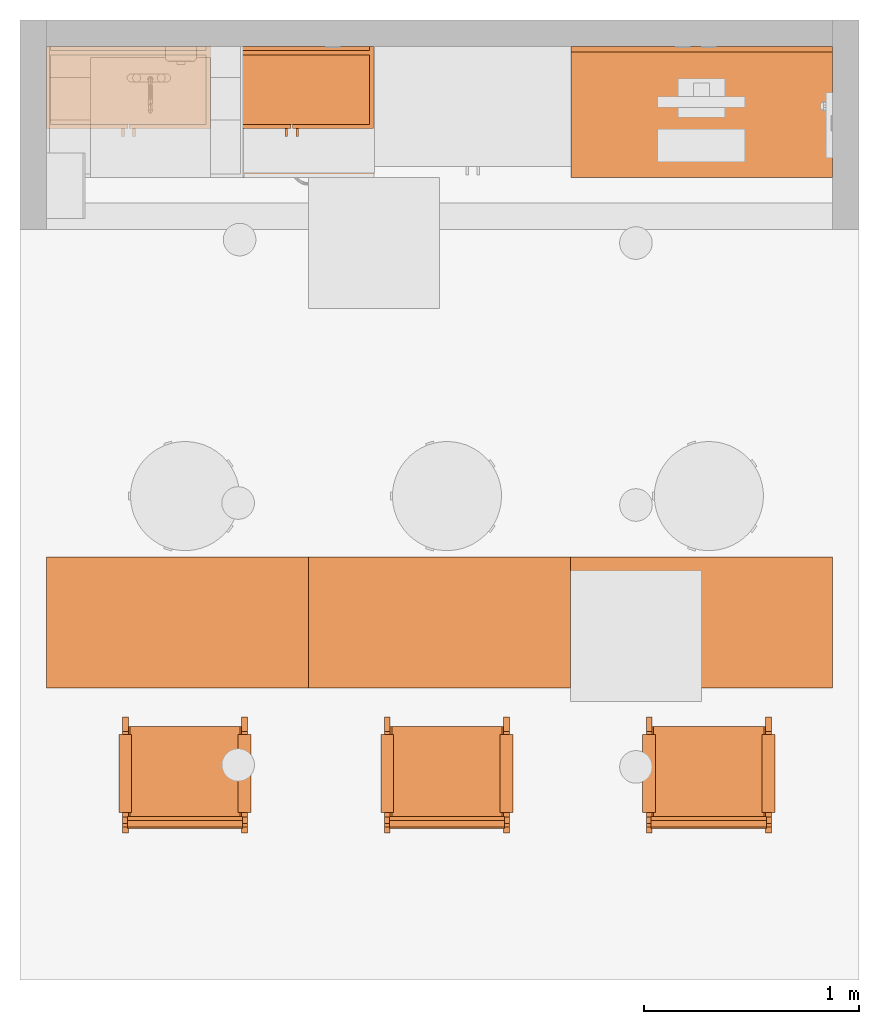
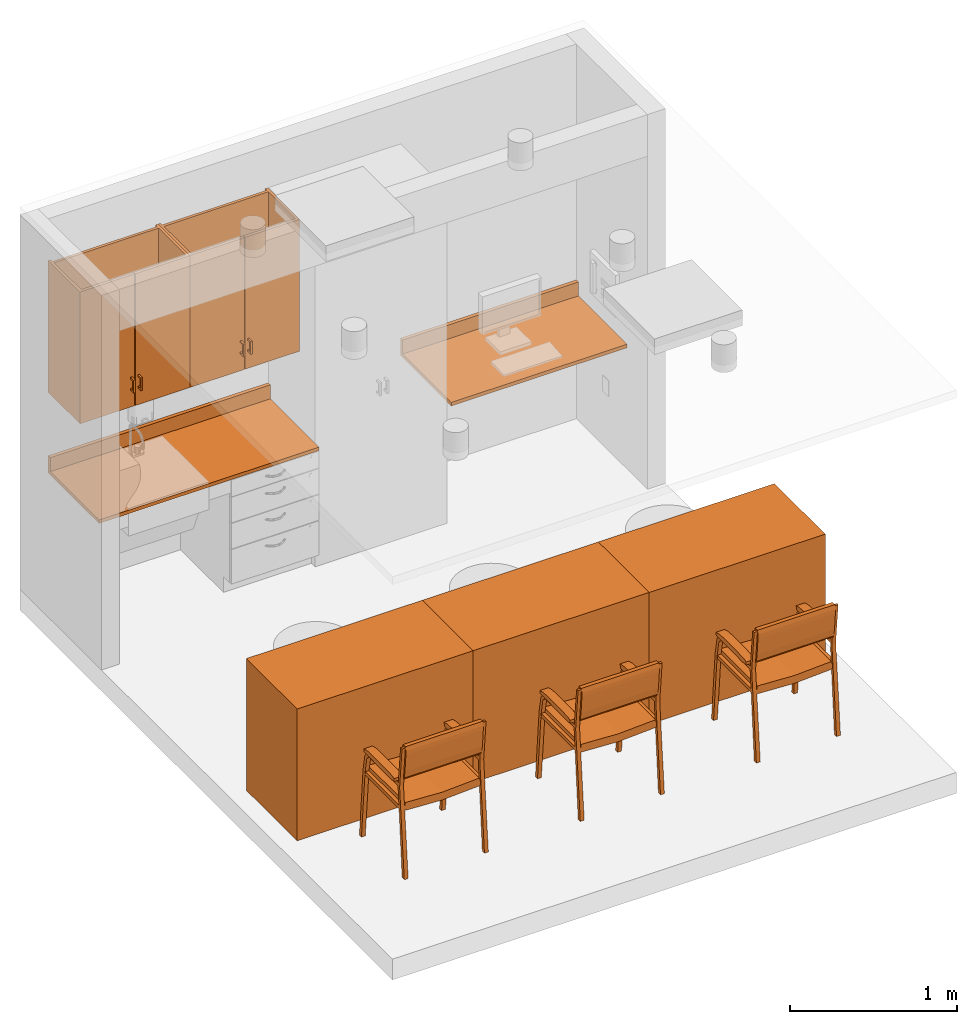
# One storey, part 4 of 8: 10 proxies.
"""IFC2X3 building model written with IfcOpenShell, lengths in feet."""

import ifcopenshell
import ifcopenshell.guid

model = None  # the IFC model being written
_history = None  # IfcOwnerHistory: only IFC2X3 demands one
_inside = {}  # id of a spatial element -> (the spatial element, [elements in it])
_under = {}  # id of a project, library or spatial element -> (it, [spatial elements below it])
_declared = {}  # id of a project -> (the project, [libraries it declares])
_typed = {}  # id of a type object -> (the type object, [elements of that type])
_made_of = {}  # id of a material, layer set ... -> (it, [elements and type objects made of it])


def new_model(schema):
    """Start an empty IFC model of exactly this schema.

    Asked for "IFC4X3", IfcOpenShell would pick the latest addendum, in which some entities
    have other attributes; the version numbers below select the first issue.
    IFC2X3 requires an IfcOwnerHistory on every rooted entity: one is made here for all.
    """
    global model, _history
    if schema == "IFC4X3":
        model = ifcopenshell.file(schema_version=(4, 3, 0, 0))
    else:
        model = ifcopenshell.file(schema=schema)
    _inside.clear()
    _under.clear()
    _declared.clear()
    _typed.clear()
    _made_of.clear()
    _history = None
    if model.schema == "IFC2X3":
        org = make("IfcOrganization", Name="unknown")
        user = make(
            "IfcPersonAndOrganization",
            ThePerson=make("IfcPerson", FamilyName="unknown"),
            TheOrganization=org,
        )
        app = make(
            "IfcApplication",
            ApplicationDeveloper=org,
            Version="unknown",
            ApplicationFullName="unknown",
            ApplicationIdentifier="unknown",
        )
        _history = make(
            "IfcOwnerHistory",
            OwningUser=user,
            OwningApplication=app,
            ChangeAction="ADDED",
            CreationDate=0,
        )
    return model


def make(cls, **values):
    """One entity of the class cls with the attributes given. An attribute that is None is left unset."""
    return model.create_entity(
        cls, **{name: value for name, value in values.items() if value is not None}
    )


def entity(cls, *values):
    """Any entity or typed value of the class cls, its attributes in the order of the schema. None: left unset."""
    e = model.create_entity(cls)
    for i, value in enumerate(values):
        if value is not None:
            e[i] = value
    return e


def rooted(cls, **values):
    """An entity with a GlobalId (a new one), such as an element, a storey or a relation."""
    return make(cls, GlobalId=ifcopenshell.guid.new(), OwnerHistory=_history, **values)


def si_unit(unit_type, name, prefix=None):
    """IfcSIUnit, for example si_unit("LENGTHUNIT", "METRE", prefix="MILLI")."""
    return make("IfcSIUnit", UnitType=unit_type, Prefix=prefix, Name=name)


def converted_unit(unit_type, name, factor, base, dimensions=None, offset=None):
    """IfcConversionBasedUnit, such as the inch: factor (a typed value) times the base unit."""
    return make(
        "IfcConversionBasedUnit"
        if offset is None
        else "IfcConversionBasedUnitWithOffset",
        ConversionOffset=offset,
        Dimensions=None
        if dimensions is None
        else entity("IfcDimensionalExponents", *dimensions),
        UnitType=unit_type,
        Name=name,
        ConversionFactor=make(
            "IfcMeasureWithUnit", ValueComponent=factor, UnitComponent=base
        ),
    )


def derived_unit(unit_type, elements):
    """IfcDerivedUnit: a product of units, each with its exponent."""
    return make(
        "IfcDerivedUnit",
        Elements=[
            make("IfcDerivedUnitElement", Unit=unit, Exponent=power)
            for unit, power in elements
        ],
        UnitType=unit_type,
    )


def assignment(units):
    """IfcUnitAssignment: the units of a project."""
    return None if units is None else make("IfcUnitAssignment", Units=units)


def point(xyz):
    """IfcCartesianPoint."""
    return None if xyz is None else make("IfcCartesianPoint", Coordinates=xyz)


def direction(xyz):
    """IfcDirection."""
    return None if xyz is None else make("IfcDirection", DirectionRatios=xyz)


def frame(location, z_axis=None, x_axis=None):
    """IfcAxis2Placement3D, a coordinate frame: its origin and axes. An axis left out is left unset."""
    return make(
        "IfcAxis2Placement3D",
        Location=point(location),
        Axis=direction(z_axis),
        RefDirection=direction(x_axis),
    )


def frame_2d(location, x_axis=None):
    """IfcAxis2Placement2D, a coordinate frame in the plane: its origin and x axis."""
    return make(
        "IfcAxis2Placement2D", Location=point(location), RefDirection=direction(x_axis)
    )


def origin():
    """The frame at (0, 0, 0) with its axes left unset."""
    return frame((0.0, 0.0, 0.0))


def origin_2d_with_axis():
    """The frame at (0, 0) in the plane with the x axis (1, 0) written out."""
    return frame_2d((0.0, 0.0), x_axis=(1.0, 0.0))


def place(relative_to, where):
    """IfcLocalPlacement: puts the frame where relative to a parent placement (None: the world)."""
    return make(
        "IfcLocalPlacement", PlacementRelTo=relative_to, RelativePlacement=where
    )


def context(
    kind, dimensions, precision=None, world=None, true_north=None, identifier=None
):
    """IfcGeometricRepresentationContext, for example the 3D "Model" context."""
    return make(
        "IfcGeometricRepresentationContext",
        ContextIdentifier=identifier,
        ContextType=kind,
        CoordinateSpaceDimension=dimensions,
        Precision=precision,
        WorldCoordinateSystem=world,
        TrueNorth=true_north,
    )


def subcontext(parent, identifier, kind, view, scale=None):
    """IfcGeometricRepresentationSubContext, for example "Body" below "Model"."""
    return make(
        "IfcGeometricRepresentationSubContext",
        ContextIdentifier=identifier,
        ContextType=kind,
        ParentContext=parent,
        TargetScale=scale,
        TargetView=view,
    )


def project(units=None, contexts=None):
    """IfcProject with its units and contexts."""
    return rooted(
        "IfcProject",
        Name="project",
        RepresentationContexts=contexts,
        UnitsInContext=assignment(units),
    )


def spatial(cls, under=None, at=None, **own):
    """A site, building, storey or space (cls), placed at a placement, below another one or the project."""
    s = rooted(cls, ObjectPlacement=at, **own)
    if under is not None:
        _under.setdefault(under.id(), (under, []))[1].append(s)
    return s


def polyline(points):
    """IfcPolyline through the points."""
    return make("IfcPolyline", Points=[point(p) for p in points])


def circle_curve(where, radius):
    """IfcCircle in the frame where."""
    return make("IfcCircle", Position=where, Radius=radius)


def parameter(value):
    """IfcParameterValue: where a trimmed curve begins or ends, as a parameter of its basis curve."""
    return model.create_entity("IfcParameterValue", value)


def trimmed(basis, trim1, trim2, sense, master):
    """IfcTrimmedCurve: the piece of a basis curve between two trims."""
    return make(
        "IfcTrimmedCurve",
        BasisCurve=basis,
        Trim1=trim1,
        Trim2=trim2,
        SenseAgreement=sense,
        MasterRepresentation=master,
    )


def segment(curve, same_sense, transition):
    """IfcCompositeCurveSegment."""
    return make(
        "IfcCompositeCurveSegment",
        Transition=transition,
        SameSense=same_sense,
        ParentCurve=curve,
    )


def composite_curve(segments, self_intersect=None):
    """IfcCompositeCurve: segments joined end to end."""
    return make("IfcCompositeCurve", Segments=segments, SelfIntersect=self_intersect)


def profile(cls, at=None, kind="AREA", **sizes):
    """A parametric profile (cls). Its sizes go by their IFC names, for example OverallWidth=200.0."""
    return make(cls, ProfileType=kind, Position=at, **sizes)


def rectangle(**sizes):
    """IfcRectangleProfileDef."""
    return profile("IfcRectangleProfileDef", **sizes)


def circle(**sizes):
    """IfcCircleProfileDef."""
    return profile("IfcCircleProfileDef", **sizes)


def outline(outer, holes=None, kind="AREA"):
    """IfcArbitraryClosedProfileDef: a profile drawn as a closed curve; with holes, ...WithVoids."""
    if holes is None:
        return make("IfcArbitraryClosedProfileDef", ProfileType=kind, OuterCurve=outer)
    return make(
        "IfcArbitraryProfileDefWithVoids",
        ProfileType=kind,
        OuterCurve=outer,
        InnerCurves=holes,
    )


def extrude(swept, where, along, depth):
    """IfcExtrudedAreaSolid: the profile swept, set in the frame where, extruded along a direction by depth."""
    return make(
        "IfcExtrudedAreaSolid",
        SweptArea=swept,
        Position=where,
        ExtrudedDirection=direction(along),
        Depth=depth,
    )


def shape(context_of_items, identifier, shape_type, items):
    """IfcShapeRepresentation: the items that make up one representation, for example the "Body"."""
    return make(
        "IfcShapeRepresentation",
        ContextOfItems=context_of_items,
        RepresentationIdentifier=identifier,
        RepresentationType=shape_type,
        Items=items,
    )


def source(mapping_origin, context_of_items, identifier, shape_type, items):
    """IfcRepresentationMap: a shape defined once, which mapped items show again and again."""
    return make(
        "IfcRepresentationMap",
        MappingOrigin=mapping_origin,
        MappedRepresentation=shape(context_of_items, identifier, shape_type, items),
    )


def transform(
    local_origin,
    x_axis=None,
    y_axis=None,
    z_axis=None,
    scale=None,
    scale2=None,
    scale3=None,
    uniform=True,
):
    """IfcCartesianTransformationOperator3D, or its non-uniform kind. x_axis, y_axis, z_axis: its Axis1, 2, 3."""
    if uniform:
        return make(
            "IfcCartesianTransformationOperator3D",
            Axis1=direction(x_axis),
            Axis2=direction(y_axis),
            LocalOrigin=point(local_origin),
            Scale=scale,
            Axis3=direction(z_axis),
        )
    return make(
        "IfcCartesianTransformationOperator3DnonUniform",
        Axis1=direction(x_axis),
        Axis2=direction(y_axis),
        LocalOrigin=point(local_origin),
        Scale=scale,
        Axis3=direction(z_axis),
        Scale2=scale2,
        Scale3=scale3,
    )


def mapped(mapping_source, mapping_target):
    """IfcMappedItem: shows the shape of a source again, moved by a transform."""
    return make(
        "IfcMappedItem", MappingSource=mapping_source, MappingTarget=mapping_target
    )


def material(Name=None, Category=None):
    """IfcMaterial."""
    return make("IfcMaterial", Name=Name, Category=Category)


def made_of(thing, what):
    """Note that an element or type object is made of a material, layer set ...; save() writes the relation."""
    if what is not None:
        _made_of.setdefault(what.id(), (what, []))[1].append(thing)
    return thing


def type_object(cls, material=None, **own):
    """A type object (cls), such as IfcWallType, which elements share."""
    return made_of(rooted(cls, **own), material)


def type_shapes(of_type, sources):
    """Give a type object the sources (RepresentationMaps) that its elements show as mapped items."""
    of_type.RepresentationMaps = sources


def element(
    cls,
    number,
    at=None,
    inside=None,
    cuts=None,
    type_object=None,
    material=None,
    context=None,
    identifier="Body",
    shape_type=None,
    held_by="IfcProductDefinitionShape",
    body=None,
    shapes=None,
    **own,
):
    """One element of the class cls, such as IfcWall. Its Tag is "e" and its number.

    at: its placement. inside: the storey or other place that contains it. cuts: it is an
    opening in that element (IfcRelVoidsElement). A single representation is given by context,
    identifier, shape_type and body (its items); several are given by shapes. held_by: the class
    of the entity that holds the representations. save() writes the other relations.
    """
    e = rooted(cls, Tag="e%d" % number, ObjectPlacement=at, **own)
    if body is not None:
        shapes = [shape(context, identifier, shape_type, body)]
    if shapes is not None:
        e.Representation = make(held_by, Representations=shapes)
    if inside is not None:
        _inside.setdefault(inside.id(), (inside, []))[1].append(e)
    if cuts is not None:
        rooted(
            "IfcRelVoidsElement", RelatingBuildingElement=cuts, RelatedOpeningElement=e
        )
    if type_object is not None:
        _typed.setdefault(type_object.id(), (type_object, []))[1].append(e)
    return made_of(e, material)


def aggregate(whole, parts):
    """IfcRelAggregates: a whole, such as a stair, and the parts it consists of."""
    return rooted("IfcRelAggregates", RelatingObject=whole, RelatedObjects=parts)


def save(model, path):
    """Write the relations noted so far, then the file.

    IfcRelAggregates (storeys below a building ...), IfcRelContainedInSpatialStructure (elements
    in a storey), IfcRelDefinesByType, IfcRelAssociatesMaterial and IfcRelDeclares: one each for
    every whole, place, type object, material and project.
    """
    for whole, parts in _under.values():
        aggregate(whole, parts)
    for where, things in _inside.values():
        rooted(
            "IfcRelContainedInSpatialStructure",
            RelatedElements=things,
            RelatingStructure=where,
        )
    for kind, things in _typed.values():
        rooted("IfcRelDefinesByType", RelatedObjects=things, RelatingType=kind)
    for what, things in _made_of.values():
        rooted("IfcRelAssociatesMaterial", RelatedObjects=things, RelatingMaterial=what)
    for by, libraries in _declared.values():
        rooted("IfcRelDeclares", RelatingContext=by, RelatedDefinitions=libraries)
    model.write(path)


model = new_model("IFC2X3")

# Units and contexts
model_context = context("Model", 3, precision=0.0001, world=origin(), true_north=direction((6.12303176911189e-17, 1.0)))
body_context = subcontext(model_context, "Body", "Model", "MODEL_VIEW")
ifc_project = project(units=[converted_unit("LENGTHUNIT", "FOOT", entity("IfcRatioMeasure", 0.3048), si_unit("LENGTHUNIT", "METRE"), dimensions=[1, 0, 0, 0, 0, 0, 0]), converted_unit("AREAUNIT", "SQUARE FOOT", entity("IfcRatioMeasure", 0.09290304), si_unit("AREAUNIT", "SQUARE_METRE"), dimensions=[2, 0, 0, 0, 0, 0, 0]), converted_unit("VOLUMEUNIT", "CUBIC FOOT", entity("IfcRatioMeasure", 0.028316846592), si_unit("VOLUMEUNIT", "CUBIC_METRE"), dimensions=[3, 0, 0, 0, 0, 0, 0]), converted_unit("PLANEANGLEUNIT", "DEGREE", entity("IfcRatioMeasure", 0.0174532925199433), si_unit("PLANEANGLEUNIT", "RADIAN"), dimensions=[0, 0, 0, 0, 0, 0, 0]), si_unit("MASSUNIT", "GRAM", prefix="KILO"), derived_unit("MASSDENSITYUNIT", [(si_unit("MASSUNIT", "GRAM", prefix="KILO"), 1), (si_unit("LENGTHUNIT", "METRE"), -3)]), si_unit("TIMEUNIT", "SECOND"), si_unit("FREQUENCYUNIT", "HERTZ"), si_unit("THERMODYNAMICTEMPERATUREUNIT", "DEGREE_CELSIUS"), derived_unit("THERMALTRANSMITTANCEUNIT", [(si_unit("MASSUNIT", "GRAM", prefix="KILO"), 1), (si_unit("THERMODYNAMICTEMPERATUREUNIT", "KELVIN"), -1), (si_unit("TIMEUNIT", "SECOND"), -3)]), derived_unit("VOLUMETRICFLOWRATEUNIT", [(si_unit("LENGTHUNIT", "METRE"), 3), (si_unit("TIMEUNIT", "SECOND"), -1)]), si_unit("ELECTRICCURRENTUNIT", "AMPERE"), si_unit("ELECTRICVOLTAGEUNIT", "VOLT"), si_unit("POWERUNIT", "WATT"), si_unit("FORCEUNIT", "NEWTON"), si_unit("ILLUMINANCEUNIT", "LUX"), si_unit("LUMINOUSFLUXUNIT", "LUMEN"), si_unit("LUMINOUSINTENSITYUNIT", "CANDELA"), derived_unit("USERDEFINED", [(si_unit("MASSUNIT", "GRAM", prefix="KILO"), -1), (si_unit("LENGTHUNIT", "METRE"), -2), (si_unit("TIMEUNIT", "SECOND"), 3), (si_unit("LUMINOUSFLUXUNIT", "LUMEN"), 1)]), derived_unit("LINEARVELOCITYUNIT", [(si_unit("LENGTHUNIT", "METRE"), 1), (si_unit("TIMEUNIT", "SECOND"), -1)]), si_unit("PRESSUREUNIT", "PASCAL"), derived_unit("USERDEFINED", [(si_unit("LENGTHUNIT", "METRE"), -2), (si_unit("MASSUNIT", "GRAM", prefix="KILO"), 1), (si_unit("TIMEUNIT", "SECOND"), -2)])], contexts=[model_context])

# Site, building, storey, space
site_placement = place(None, origin())
site = spatial("IfcSite", under=ifc_project, at=site_placement, Name="Default", CompositionType="ELEMENT")
building_placement = place(site_placement, origin())
building = spatial("IfcBuilding", under=site, at=building_placement, Name="EYE CLINIC:  OPTHALMOLOGY AND OPTOMETRY SERVICES (Ch. 233)", CompositionType="ELEMENT")
storey_placement = place(building_placement, origin())
storey = spatial("IfcBuildingStorey", under=building, at=storey_placement, Name="DATUM", CompositionType="ELEMENT", Elevation=0.0)
space_placement = place(storey_placement, origin())
space = spatial("IfcSpace", under=storey, at=space_placement, Name="(OPFD1)", CompositionType="ELEMENT", InteriorOrExteriorSpace="INTERNAL")

# Proxies
building_element_proxy_type_1 = type_object("IfcBuildingElementProxyType", Name="F0205 - Side Chair with Arms", PredefinedType="NOTDEFINED")
shared_shape_1 = source(origin(), body_context, "Body", "SweptSolid", [
    extrude(outline(polyline([(-0.104007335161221, -0.374369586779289), (-0.027711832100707, -0.374369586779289), (-0.0197350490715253, -0.338348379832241), (0.00592434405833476, -0.182113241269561), (0.0162560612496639, -0.135457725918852), (0.0457826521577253, -0.00212284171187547), (0.0856087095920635, 0.177721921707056), (0.112798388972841, 0.276572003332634), (0.120257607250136, 0.307674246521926), (0.129202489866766, 0.415216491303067), (0.045581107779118, 0.433734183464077), (0.0167028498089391, 0.395704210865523), (-0.0364083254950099, 0.222671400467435), (-0.125070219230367, -0.177704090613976), (-0.13682888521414, -0.27538652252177), (-0.128352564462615, -0.36942248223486), (-0.104007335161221, -0.374369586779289)])), frame((-0.891159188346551, -0.878769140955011, 2.73061112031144), z_axis=(0.0, 1.0, 0.0), x_axis=(0.991475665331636, 0.0, -0.130291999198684)), (0.0, 0.0, 1.0), 1.75919993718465),
    extrude(outline(polyline([(0.0907668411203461, -0.842703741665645), (0.261538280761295, -0.842703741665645), (0.265730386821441, -0.773999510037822), (0.127479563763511, 0.0287496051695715), (-0.0923338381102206, 0.813085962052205), (-0.125373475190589, 0.873420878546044), (-0.279635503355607, 0.800086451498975), (-0.270660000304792, 0.752608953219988), (-0.0560029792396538, -0.0126173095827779), (0.0784907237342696, -0.795927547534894), (0.0907668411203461, -0.842703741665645)])), frame((-0.90556950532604, 0.000822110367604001, 1.62079321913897), z_axis=(1.0, 0.0, 0.0), x_axis=(0.0, -0.219936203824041, -0.975514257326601)), (0.0, 0.0, 1.0), 1.47211210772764),
    extrude(outline(polyline([(-0.552031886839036, -0.234422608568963), (-0.484734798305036, -0.234422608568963), (-0.233837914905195, -0.160903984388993), (0.324339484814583, 0.0422559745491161), (0.453697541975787, 0.101150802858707), (0.564536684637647, 0.176717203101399), (0.51204038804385, 0.250193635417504), (0.420212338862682, 0.216770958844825), (0.254858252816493, 0.145732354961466), (-0.246233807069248, -0.0366502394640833), (-0.436544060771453, -0.0986810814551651), (-0.576302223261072, -0.167740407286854), (-0.552031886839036, -0.234422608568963)])), frame((-0.1510824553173, -1.00916916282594, 2.22827697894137), z_axis=(0.0, 1.0, 0.0), x_axis=(0.939692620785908, 0.0, 0.34202014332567)), (0.0, 0.0, 1.0), 0.198199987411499),
    extrude(outline(polyline([(-0.525375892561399, -0.221085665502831), (-0.458078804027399, -0.221085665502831), (-0.207181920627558, -0.147567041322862), (0.350995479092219, 0.0555929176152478), (0.480353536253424, 0.114487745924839), (0.591192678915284, 0.190054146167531), (0.551062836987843, 0.246221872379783), (0.114629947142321, 0.0873732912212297), (0.281514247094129, 0.159069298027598), (-0.219577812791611, -0.0233132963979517), (-0.409888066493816, -0.0853441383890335), (-0.549646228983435, -0.154403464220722), (-0.525375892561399, -0.221085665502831)])), frame((-0.180692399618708, 0.814330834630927, 2.23169271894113), z_axis=(0.0, 1.0, 0.0), x_axis=(0.939692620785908, 0.0, 0.34202014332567)), (0.0, 0.0, 1.0), 0.196499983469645),
    extrude(outline(polyline([(0.0166377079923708, -0.666422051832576), (0.099971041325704, -0.666422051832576), (-0.0172324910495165, 0.673220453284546), (-0.0993762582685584, 0.659623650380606), (0.0166377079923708, -0.666422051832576)])), frame((-0.182442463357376, -0.954369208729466, 1.61480726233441), z_axis=(0.0, 1.0, 0.0), x_axis=(0.0871557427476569, 0.0, -0.996194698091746)), (0.0, 0.0, 1.0), 0.0833333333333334),
    extrude(outline(polyline([(0.0166377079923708, -0.666422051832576), (0.099971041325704, -0.666422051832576), (-0.0172324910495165, 0.673220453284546), (-0.0993762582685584, 0.659623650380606), (0.0166377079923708, -0.666422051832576)])), frame((-0.182442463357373, 0.867430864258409, 1.61480726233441), z_axis=(0.0, 1.0, 0.0), x_axis=(0.0871557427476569, 0.0, -0.996194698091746)), (0.0, 0.0, 1.0), 0.0833333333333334),
    extrude(outline(polyline([(0.811855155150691, -1.61770011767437), (0.895188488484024, -1.61770011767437), (0.71143329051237, 0.489199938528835), (0.806416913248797, 1.46713632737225), (0.751033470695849, 1.46713632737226), (0.656855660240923, 0.571094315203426), (-0.516612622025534, 0.571094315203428), (-0.653571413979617, 0.441277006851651), (-0.728375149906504, 0.0391907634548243), (-0.871611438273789, -1.61770011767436), (-0.791571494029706, -1.61770011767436), (-0.646611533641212, 0.0391998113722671), (-0.578172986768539, 0.407071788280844), (-0.496044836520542, 0.48919993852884), (0.649788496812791, 0.489199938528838), (0.811855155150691, -1.61770011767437)])), frame((-0.163768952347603, -0.954369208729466, 1.61770011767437), z_axis=(0.0, 1.0, 0.0), x_axis=(-1.0, 0.0, 0.0)), (0.0, 0.0, 1.0), 0.0885709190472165),
    extrude(outline(polyline([(0.811855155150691, -1.61770011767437), (0.895188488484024, -1.61770011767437), (0.71143329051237, 0.489199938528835), (0.806416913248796, 1.46713632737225), (0.751033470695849, 1.46713632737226), (0.656855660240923, 0.571094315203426), (-0.516612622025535, 0.571094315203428), (-0.653571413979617, 0.441277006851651), (-0.728375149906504, 0.0391907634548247), (-0.871611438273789, -1.61770011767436), (-0.791571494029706, -1.61770011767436), (-0.646611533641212, 0.0391998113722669), (-0.578172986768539, 0.407071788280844), (-0.496044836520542, 0.48919993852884), (0.649788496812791, 0.489199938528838), (0.811855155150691, -1.61770011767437)])), frame((-0.1637689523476, 0.867430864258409, 1.61770011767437), z_axis=(0.0, 1.0, 0.0), x_axis=(-1.0, 0.0, 0.0)), (0.0, 0.0, 1.0), 0.0885709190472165),
])
type_shapes(building_element_proxy_type_1, [shared_shape_1])
for number, where, z_axis, x_axis in (
    (1, (389.67812286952, 0.781369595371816, 0.0), (0.0, 0.0, 1.0), (0.0, 1.0, 0.0)),
    (2, (385.67812286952, 0.781369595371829, 0.0), (0.0, 0.0, 1.0), (0.0, 1.0, 0.0)),
    (3, (381.67812286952, 0.781369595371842, 0.0), (0.0, 0.0, 1.0), (0.0, 1.0, 0.0)),
):
    element("IfcBuildingElementProxy", number, at=place(space_placement, frame(where, z_axis=z_axis, x_axis=x_axis)), inside=space, type_object=building_element_proxy_type_1, Name="F0205 - Side Chair with Arms:F0205 - Side Chair with Arms", ObjectType="F0205 - Side Chair with Arms", context=body_context, shape_type="MappedRepresentation", body=[
        mapped(shared_shape_1, transform((0.0, 0.0, 0.0), scale=1.0)),
    ])
ifc_material_1 = material(Name="EquipSpace")
building_element_proxy_type_2 = type_object("IfcBuildingElementProxyType", Name="E0703 - Table, Process, Adj Height, 5 Drawer, 48W x 24D", PredefinedType="NOTDEFINED", material=ifc_material_1)
shared_shape_2 = source(origin(), body_context, "Body", "SweptSolid", [
    extrude(rectangle(XDim=0.125000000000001, YDim=0.139821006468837, at=frame_2d((5.55111512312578e-17, 1.11022302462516e-16), x_axis=(1.0, 0.0))), frame((-1.85691677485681, -0.740285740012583, 0.14251914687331), z_axis=(0.0, 0.0, 1.0), x_axis=(0.0, -1.0, 0.0)), (0.0, 0.0, 1.0), 0.229166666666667),
    extrude(rectangle(XDim=0.125000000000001, YDim=0.139821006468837, at=frame_2d((5.55111512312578e-17, 1.11022302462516e-16), x_axis=(1.0, 0.0))), frame((-1.85691677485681, 0.78574759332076, 0.142519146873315), z_axis=(0.0, 0.0, 1.0), x_axis=(0.0, -1.0, 0.0)), (0.0, 0.0, 1.0), 0.229166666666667),
    extrude(rectangle(XDim=0.125000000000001, YDim=0.139821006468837, at=frame_2d((-5.55111512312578e-17, 1.11022302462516e-16), x_axis=(1.0, 0.0))), frame((1.85691677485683, -0.740285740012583, 0.14251914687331), z_axis=(0.0, 0.0, 1.0), x_axis=(0.0, 1.0, 0.0)), (0.0, 0.0, 1.0), 0.229166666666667),
    extrude(rectangle(XDim=0.125000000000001, YDim=0.139821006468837, at=frame_2d((-5.55111512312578e-17, 1.11022302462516e-16), x_axis=(1.0, 0.0))), frame((1.85691677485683, 0.78574759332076, 0.142519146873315), z_axis=(0.0, 0.0, 1.0), x_axis=(0.0, 1.0, 0.0)), (0.0, 0.0, 1.0), 0.229166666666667),
    extrude(circle(Radius=0.166666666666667, at=frame_2d((0.0, 2.77555756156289e-16), x_axis=(1.0, 0.0))), frame((-1.88541666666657, 0.830724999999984, 0.16666666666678), z_axis=(1.0, 0.0, 0.0), x_axis=(0.0, 1.0, 0.0)), (0.0, 0.0, 1.0), 0.06249999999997),
    extrude(circle(Radius=0.166666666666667, at=frame_2d((0.0, 2.77555756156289e-16), x_axis=(1.0, 0.0))), frame((-1.88541666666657, -0.695308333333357, 0.16666666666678), z_axis=(1.0, 0.0, 0.0), x_axis=(0.0, 1.0, 0.0)), (0.0, 0.0, 1.0), 0.06249999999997),
    extrude(circle(Radius=0.166666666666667, at=frame_2d((8.88178419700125e-16, 0.0), x_axis=(1.0, 0.0))), frame((1.8229166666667, 0.83072499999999, 0.166666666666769), z_axis=(1.0, 0.0, 0.0), x_axis=(0.0, 0.0, 1.0)), (0.0, 0.0, 1.0), 0.0625000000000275),
    extrude(circle(Radius=0.166666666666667, at=frame_2d((8.88178419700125e-16, 0.0), x_axis=(1.0, 0.0))), frame((1.8229166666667, -0.695308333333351, 0.166666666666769), z_axis=(1.0, 0.0, 0.0), x_axis=(0.0, 0.0, 1.0)), (0.0, 0.0, 1.0), 0.0625000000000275),
    extrude(rectangle(XDim=4.0, YDim=2.0, at=frame_2d((2.22044604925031e-16, 0.0), x_axis=(1.0, 0.0))), frame((0.0, 0.0, 2.89583333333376)), (0.0, 0.0, 1.0), 0.104166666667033),
    extrude(outline(composite_curve([segment(polyline([(-1.06687434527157, -0.077969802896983), (0.839375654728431, -0.077969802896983)]), True, "CONTINUOUS"), segment(polyline([(0.839375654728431, -0.077969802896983), (0.839375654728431, -0.0128614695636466)]), True, "CONTINUOUS"), segment(polyline([(0.839375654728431, -0.0128614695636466), (0.506042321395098, -0.0128614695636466)]), True, "CONTINUOUS"), segment(polyline([(0.506042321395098, -0.0128614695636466), (0.41615189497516, 0.00718407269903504)]), True, "CONTINUOUS"), segment(polyline([(0.41615189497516, 0.00718407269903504), (0.337267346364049, 0.0384326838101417)]), True, "CONTINUOUS"), segment(polyline([(0.337267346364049, 0.0384326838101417), (0.269388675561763, 0.0808843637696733)]), True, "CONTINUOUS"), segment(polyline([(0.269388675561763, 0.0808843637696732), (-0.256978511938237, 0.0808843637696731)]), True, "CONTINUOUS"), segment(trimmed(circle_curve(frame_2d((-0.816874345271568, 1.70599692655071), x_axis=(1.0, 0.0)), 1.71885839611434), [parameter(270.0)], [parameter(289.010233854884)], True, "PARAMETER"), False, "CONTINUOUS"), segment(polyline([(-0.816874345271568, -0.0128614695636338), (-1.06687434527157, -0.0128614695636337)]), True, "CONTINUOUS"), segment(polyline([(-1.06687434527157, -0.0128614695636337), (-1.06687434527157, -0.077969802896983)]), True, "CONTINUOUS")], self_intersect=False)), frame((-1.98958333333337, -0.113749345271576, 0.349113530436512), z_axis=(1.0, 0.0, 0.0), x_axis=(0.0, -1.0, 0.0)), (0.0, 0.0, 1.0), 0.270833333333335),
    extrude(outline(polyline([(-0.266804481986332, -0.515627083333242), (2.04309135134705, -0.515627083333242), (2.04309135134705, 0.270831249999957), (-0.266804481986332, 0.270831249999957), (-0.312377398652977, 0.452472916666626), (-0.335163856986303, 0.634114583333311), (-0.346557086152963, 0.815756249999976), (-0.357950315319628, 0.997397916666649), (-0.425658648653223, 0.997397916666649), (-0.425658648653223, -0.75260208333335), (-0.356056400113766, -0.75260208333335), (-0.345610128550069, -0.693358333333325), (-0.335163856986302, -0.63411458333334), (-0.312377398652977, -0.574870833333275), (-0.266804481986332, -0.515627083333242)])), frame((-1.98958333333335, -0.122397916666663, 2.47017468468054), z_axis=(1.0, 0.0, 0.0), x_axis=(0.0, 0.0, -1.0)), (0.0, 0.0, 1.0), 0.109375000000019),
    extrude(outline(polyline([(-0.145833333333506, -0.0805055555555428), (0.364583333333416, -0.0805055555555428), (0.364583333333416, 0.0597027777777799), (-0.21874999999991, 0.0597027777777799), (-0.21874999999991, 0.0208027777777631), (-0.145833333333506, 0.0208027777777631), (-0.145833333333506, -0.0805055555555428)])), frame((-1.88020833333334, -0.431447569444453, 2.36458333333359), z_axis=(1.0, 0.0, 0.0), x_axis=(0.0, 0.0, -1.0)), (0.0, 0.0, 1.0), 3.76041666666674),
    extrude(outline(polyline([(-0.0805055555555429, -0.364583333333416), (0.0597027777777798, -0.364583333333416), (0.0597027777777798, 0.218749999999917), (0.020802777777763, 0.218749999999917), (0.020802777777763, 0.145833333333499), (-0.0805055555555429, 0.145833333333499), (-0.0805055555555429, -0.364583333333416)])), frame((-1.88020833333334, -0.431447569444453, 1.36458333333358), z_axis=(1.0, 0.0, 0.0), x_axis=(0.0, 1.0, 0.0)), (0.0, 0.0, 1.0), 3.76041666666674),
    extrude(outline(composite_curve([segment(polyline([(-1.06687434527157, -0.0779698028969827), (0.839375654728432, -0.0779698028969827)]), True, "CONTINUOUS"), segment(polyline([(0.839375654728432, -0.0779698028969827), (0.839375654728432, -0.0128614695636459)]), True, "CONTINUOUS"), segment(polyline([(0.839375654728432, -0.0128614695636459), (0.506042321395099, -0.0128614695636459)]), True, "CONTINUOUS"), segment(polyline([(0.506042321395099, -0.0128614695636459), (0.416151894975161, 0.00718407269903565)]), True, "CONTINUOUS"), segment(polyline([(0.416151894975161, 0.00718407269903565), (0.33726734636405, 0.0384326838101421)]), True, "CONTINUOUS"), segment(polyline([(0.33726734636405, 0.0384326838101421), (0.269388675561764, 0.0808843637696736)]), True, "CONTINUOUS"), segment(polyline([(0.269388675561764, 0.0808843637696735), (-0.256978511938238, 0.0808843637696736)]), True, "CONTINUOUS"), segment(trimmed(circle_curve(frame_2d((-0.816874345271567, 1.70599692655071), x_axis=(1.0, 0.0)), 1.71885839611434), [parameter(270.0)], [parameter(289.010233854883)], True, "PARAMETER"), False, "CONTINUOUS"), segment(polyline([(-0.816874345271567, -0.0128614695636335), (-1.06687434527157, -0.0128614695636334)]), True, "CONTINUOUS"), segment(polyline([(-1.06687434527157, -0.0128614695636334), (-1.06687434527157, -0.0779698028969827)]), True, "CONTINUOUS")], self_intersect=False)), frame((1.71875000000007, -0.113749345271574, 0.349113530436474), z_axis=(1.0, 0.0, 0.0), x_axis=(0.0, -1.0, 0.0)), (0.0, 0.0, 1.0), 0.270833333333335),
    extrude(outline(polyline([(-0.266804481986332, -0.515627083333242), (2.04309135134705, -0.515627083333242), (2.04309135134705, 0.270831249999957), (-0.266804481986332, 0.270831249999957), (-0.312377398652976, 0.452472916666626), (-0.335163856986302, 0.634114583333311), (-0.346557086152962, 0.815756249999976), (-0.357950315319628, 0.997397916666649), (-0.425658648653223, 0.997397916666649), (-0.425658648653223, -0.752602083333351), (-0.356056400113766, -0.752602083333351), (-0.345610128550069, -0.693358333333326), (-0.335163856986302, -0.63411458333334), (-0.312377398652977, -0.574870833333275), (-0.266804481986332, -0.515627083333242)])), frame((1.8802083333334, -0.122397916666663, 2.4701746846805), z_axis=(1.0, 0.0, 0.0), x_axis=(0.0, 0.0, -1.0)), (0.0, 0.0, 1.0), 0.109375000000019),
    extrude(rectangle(XDim=4.0, YDim=2.0, at=frame_2d((0.4, -1.11022302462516e-16), x_axis=(1.0, 0.0))), frame((-0.4, 0.0, 0.0)), (0.0, 0.0, 1.0), 3.16666666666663),
])
type_shapes(building_element_proxy_type_2, [shared_shape_2])
for number, where in (
    (4, (381.563539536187, 2.93241126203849, 0.0)),
    (5, (385.563539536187, 2.93241126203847, 0.0)),
    (6, (389.563539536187, 2.93241126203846, 0.0)),
):
    element("IfcBuildingElementProxy", number, at=place(space_placement, frame(where)), inside=space, type_object=building_element_proxy_type_2, material=ifc_material_1, Name="E0703 - Table, Process, Adj Height, 5 Drawer, 48W x 24D:E0703 - Table, Process, Adj Height, 5 Drawer, 48W x 24D", ObjectType="E0703 - Table, Process, Adj Height, 5 Drawer, 48W x 24D", context=body_context, shape_type="MappedRepresentation", body=[
        mapped(shared_shape_2, transform((0.0, 0.0, 0.0), scale=1.0)),
    ])
ifc_material_2 = material(Name="Default metal")
building_element_proxy_type_3 = type_object("IfcBuildingElementProxyType", Name="CD030 - Cabinet, W-H, 2 Shelf, 2 DO, Sloping Top, 38x30x13", PredefinedType="NOTDEFINED", material=ifc_material_2)
shared_shape_3 = source(origin(), body_context, "Body", "SweptSolid", [
    extrude(rectangle(XDim=3.16666666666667, YDim=1.18749999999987, at=frame_2d((-0.416666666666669, 0.187499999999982), x_axis=(1.0, 0.0))), frame((1.18749999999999, -0.40624999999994, 2.0), z_axis=(1.0, 0.0, 0.0), x_axis=(0.0, 0.0, 1.0)), (0.0, 0.0, 1.0), 0.0625),
    extrude(rectangle(XDim=3.16666666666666, YDim=1.18749999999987, at=frame_2d((0.106249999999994, 0.316666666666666), x_axis=(0.0, 1.0))), frame((-1.25000000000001, -0.487499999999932, 1.89999999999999), z_axis=(1.0, 0.0, 0.0), x_axis=(0.0, -1.0, 0.0)), (0.0, 0.0, 1.0), 0.0625),
    extrude(rectangle(XDim=2.37499999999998, YDim=1.1249999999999, at=origin_2d_with_axis()), frame((0.0, -0.624999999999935, 1.54346821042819)), (0.0, 0.0, 1.0), 0.0719842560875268),
    extrude(rectangle(XDim=2.37499999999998, YDim=1.1249999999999, at=origin_2d_with_axis()), frame((0.0, -0.624999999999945, 0.754268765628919)), (0.0, 0.0, 1.0), 0.0626861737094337),
    extrude(rectangle(XDim=0.0625, YDim=2.37499999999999, at=frame_2d((6.93889390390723e-18, 0.0), x_axis=(1.0, 0.0))), frame((0.0, -0.0937499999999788, 0.0624999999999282), z_axis=(0.0, 0.0, 1.0), x_axis=(0.0, -1.0, 0.0)), (0.0, 0.0, 1.0), 3.10416666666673),
    extrude(rectangle(XDim=0.0625, YDim=1.23958333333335, at=origin_2d_with_axis()), frame((0.630208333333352, -1.21875000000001, 0.0), z_axis=(0.0, 0.0, 1.0), x_axis=(0.0, -1.0, 0.0)), (0.0, 0.0, 1.0), 3.16666666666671),
    extrude(rectangle(XDim=0.0625, YDim=1.23958333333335, at=origin_2d_with_axis()), frame((-0.630208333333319, -1.21875000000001, 0.0), z_axis=(0.0, 0.0, 1.0), x_axis=(0.0, -1.0, 0.0)), (0.0, 0.0, 1.0), 3.16666666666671),
    extrude(rectangle(XDim=2.37500000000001, YDim=1.18749999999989, at=origin_2d_with_axis()), frame((0.0, -0.593749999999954, 0.0)), (0.0, 0.0, 1.0), 0.0625),
    extrude(outline(polyline([(-0.156187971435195, -0.0728607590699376), (0.156187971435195, -0.0728607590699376), (0.156187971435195, 0.0520772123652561), (0.114620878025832, 0.0520772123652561), (0.114620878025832, -0.0312936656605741), (-0.114620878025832, -0.0312936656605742), (-0.114620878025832, 0.0520772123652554), (-0.156187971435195, 0.0520772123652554), (-0.156187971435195, -0.0728607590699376)])), frame((-0.103203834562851, -1.30207721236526, 0.562531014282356), z_axis=(1.0, 0.0, 0.0), x_axis=(0.0, 0.0, -1.0)), (0.0, 0.0, 1.0), 0.0406901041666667),
    extrude(outline(polyline([(-0.156187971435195, -0.0728607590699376), (0.156187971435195, -0.0728607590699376), (0.156187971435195, 0.0520772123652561), (0.114620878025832, 0.0520772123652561), (0.114620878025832, -0.0312936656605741), (-0.114620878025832, -0.0312936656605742), (-0.114620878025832, 0.0520772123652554), (-0.156187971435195, 0.0520772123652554), (-0.156187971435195, -0.0728607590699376)])), frame((0.0634765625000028, -1.30207721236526, 0.562531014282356), z_axis=(1.0, 0.0, 0.0), x_axis=(0.0, 0.0, -1.0)), (0.0, 0.0, 1.0), 0.0406901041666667),
])
type_shapes(building_element_proxy_type_3, [shared_shape_3])
for number, where in (
    (7, (383.306972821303, 11.7292862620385, 4.83333333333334)),
    (8, (380.813539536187, 11.7292862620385, 4.83333333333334)),
):
    element("IfcBuildingElementProxy", number, at=place(space_placement, frame(where)), inside=space, type_object=building_element_proxy_type_3, material=ifc_material_2, Name="CD030 - Cabinet, W-H, 2 Shelf, 2 DO, Sloping Top, 38x30x13:CD030 - Cabinet, W-H, 2 Shelf, 2 DO, Sloping Top, 38x30x13", ObjectType="CD030 - Cabinet, W-H, 2 Shelf, 2 DO, Sloping Top, 38x30x13", context=body_context, shape_type="MappedRepresentation", body=[
        mapped(shared_shape_3, transform((0.0, 0.0, 0.0), scale=1.0)),
    ])
ifc_material_3 = material(Name="CounterTopFinish")
building_element_proxy_type_4 = type_object("IfcBuildingElementProxyType", Name="CT020 - Countertop, Solid Surface - No Opening", PredefinedType="NOTDEFINED", material=ifc_material_3)
shared_shape_4 = source(origin(), body_context, "Body", "SweptSolid", [
    extrude(rectangle(XDim=5.0, YDim=0.083333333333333, at=frame_2d((0.0, 5.55111512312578e-17), x_axis=(1.0, 0.0))), frame((0.0, 0.958333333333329, 0.0833333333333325)), (0.0, 0.0, 1.0), 0.333333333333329),
    extrude(rectangle(XDim=5.0, YDim=2.0, at=frame_2d((0.0, -1.11022302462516e-16), x_axis=(1.0, 0.0))), origin(), (0.0, 0.0, 1.0), 0.0833333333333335),
])
type_shapes(building_element_proxy_type_4, [shared_shape_4])
proxy_1_placement = place(space_placement, frame((382.063539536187, 10.7292862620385, 2.89583333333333)))
element("IfcBuildingElementProxy", 9, at=proxy_1_placement, inside=space, type_object=building_element_proxy_type_4, material=ifc_material_3, Name="CT020 - Countertop, Solid Surface - No Opening:CT020 - Countertop, Solid Surface - No Opening", ObjectType="CT020 - Countertop, Solid Surface - No Opening", context=body_context, shape_type="MappedRepresentation", body=[
    mapped(shared_shape_4, transform((0.0, 0.0, 0.0), scale=1.0)),
])
building_element_proxy_type_5 = type_object("IfcBuildingElementProxyType", Name="CT020 - Countertop, Solid Surface - No Opening", PredefinedType="NOTDEFINED", material=ifc_material_3)
shared_shape_5 = source(origin(), body_context, "Body", "SweptSolid", [
    extrude(rectangle(XDim=3.99446711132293, YDim=0.083333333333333, at=frame_2d((0.0, -5.55111512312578e-17), x_axis=(1.0, 0.0))), frame((0.0, 0.958333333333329, 0.0833333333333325)), (0.0, 0.0, 1.0), 0.333333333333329),
    extrude(rectangle(XDim=3.99446711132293, YDim=2.0, at=origin_2d_with_axis()), origin(), (0.0, 0.0, 1.0), 0.0833333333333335),
])
type_shapes(building_element_proxy_type_5, [shared_shape_5])
proxy_2_placement = place(space_placement, frame((389.567339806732, 10.7292862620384, 2.91666666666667)))
element("IfcBuildingElementProxy", 10, at=proxy_2_placement, inside=space, type_object=building_element_proxy_type_5, material=ifc_material_3, Name="CT020 - Countertop, Solid Surface - No Opening:CT020 - Countertop, Solid Surface - No Opening", ObjectType="CT020 - Countertop, Solid Surface - No Opening", context=body_context, shape_type="MappedRepresentation", body=[
    mapped(shared_shape_5, transform((0.0, 0.0, 0.0), scale=1.0)),
])

save(model, "model.ifc")
